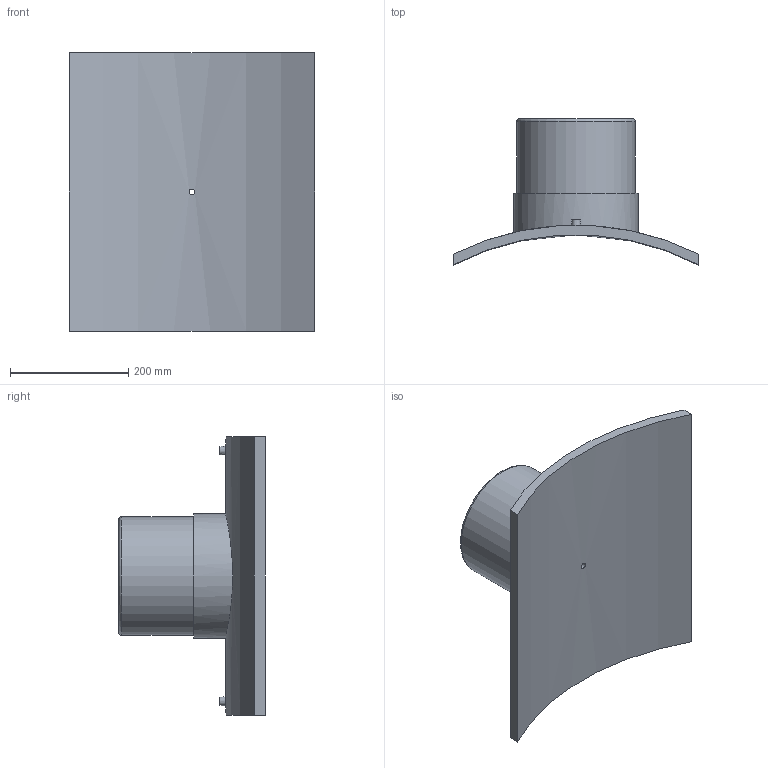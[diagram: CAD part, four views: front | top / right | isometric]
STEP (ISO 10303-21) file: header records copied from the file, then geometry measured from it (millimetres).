
FILE_DESCRIPTION(/* description */ ('PLASSON BRANCH SADDLE 900x200'),/* implementation_level */ '2;1');
FILE_NAME(/* name */ 'C:\Dropbox\99-16-3568-Processing\ElectroFusion Fittings\495803\495803900200T.ipt.stp',/* time_stamp */ '2021-02-25T09:46:04+02:00',/* author */ ('KIM'),/* organization */ (''),/* preprocessor_version */ 'ST-DEVELOPER v17.2',/* originating_system */ 'Autodesk Inventor 2019',/* authorisation */ '');
FILE_SCHEMA (('AUTOMOTIVE_DESIGN { 1 0 10303 214 3 1 1 }'));
Length unit declared in the file: millimetre
Products named in the file (1): 495803900200T
Bounding box: 415 x 246.7 x 470 mm (x, y, z)
Volume: 5523874.7 mm3; surface area: 653696.5 mm2
Topology: 1 solids, 1 shells, 29 faces, 60 edges, 43 vertices
Faces by surface type: plane 13, cylinder 12, torus 2, cone 2
Full cylindrical faces by diameter (mm): 4 x2, 9.6 x1, 10 x2, 16 x1, 160 x1, 200 x1, 210 x1
Entity records: 1086 total; most frequent: CARTESIAN_POINT 400, DIRECTION 139, ORIENTED_EDGE 120, EDGE_CURVE 60, AXIS2_PLACEMENT_3D 60, VERTEX_POINT 43, EDGE_LOOP 41, CIRCLE 30
